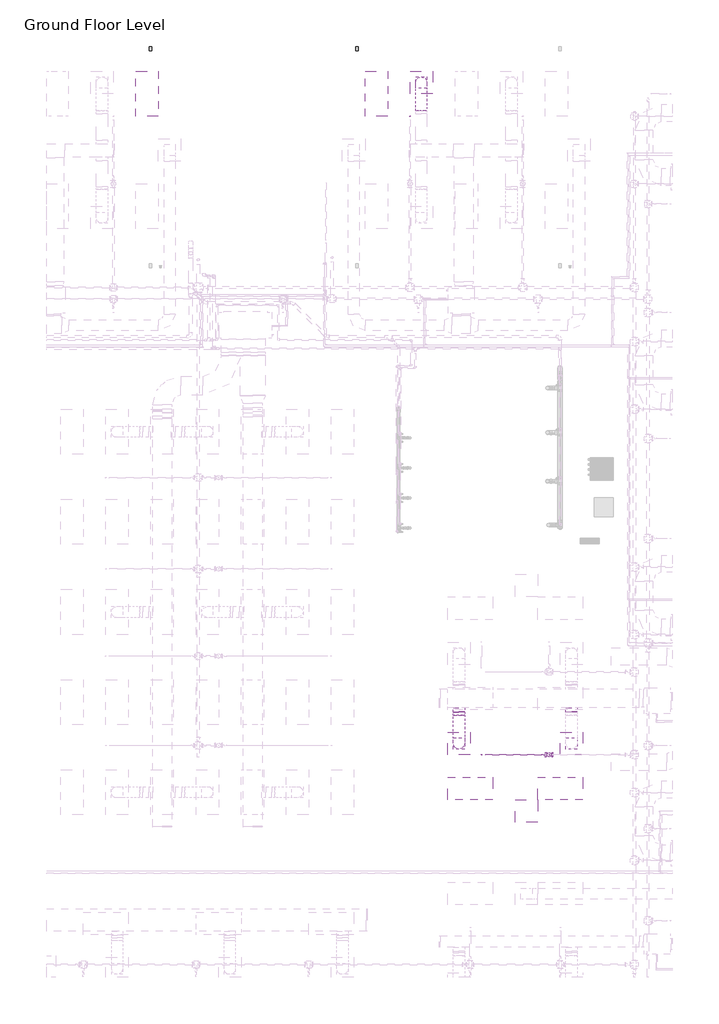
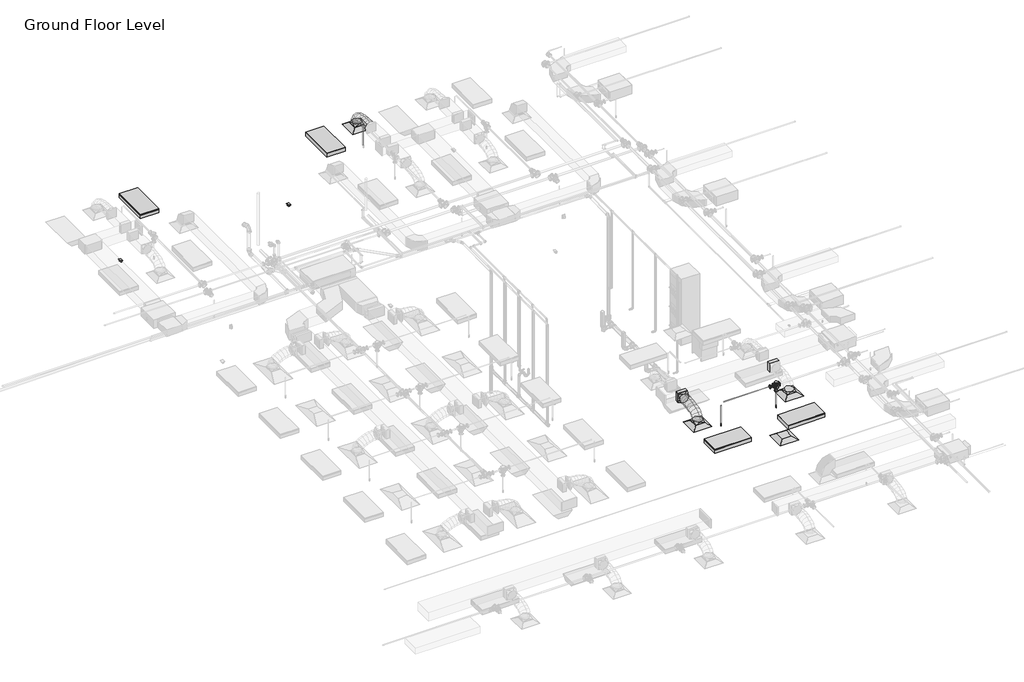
# One storey, part 59 of 74: 6 duct fittings, 4 air terminals, 4 duct segments, 4 light fixtures, 4 pipe segments, 3 pipe fittings, 2 fire suppression terminals, 2 proxies.
"""IFC4 building model written with IfcOpenShell, lengths in millimetres."""

from ifc_helpers import new_model, si_unit, point, frame, frame_2d, origin, place, context, project, spatial, polyline, circle_curve, ellipse_curve, trimmed, segment, composite_curve, outline, extrude, transform, mapped, element, save
from ifc_brep_helpers import plane_surface, cylinder_surface, advanced_brep
from components import m_return_diffuser_600_x_600_face_300_x_300_connection_ff221211, m_duplex_receptacle_standard_10251bba, m_rectangular_takeoff_standard_cb0ccb98, m_rectangular_to_round_transition_angle_45_degree_641efff0, m_sprinkler_dry_pendent_hosted_15_mm_dry_pendent_9bda8e11, m_troffer_light_parabolic_rectangular1_0600x1200mm_4_lamp_86473d4a, m_reducer_flanged_cs_class_150_standard_ccf252ad, m_tee_round_base_flanged_cs_class_150_standard_7e5987a1

model = new_model("IFC4")

# Units and contexts
model_context = context("Model", 3, world=origin())
ifc_project = project(units=[si_unit("LENGTHUNIT", "METRE", prefix="MILLI")], contexts=[model_context])

# Site, building, storey
site = spatial("IfcSite", under=ifc_project)
building = spatial("IfcBuilding", under=site)
storey = spatial("IfcBuildingStorey", under=building, Name="Ground Floor Level", Elevation=900.0)

# Air terminals
placement = place(None, origin())
m_return_diffuser_600_x_600_face_300_x_300_connection_shape = m_return_diffuser_600_x_600_face_300_x_300_connection_ff221211(model_context)
element("IfcAirTerminal", 1, ObjectType="M_Return Diffuser : 600 x 600 Face 300 x 300 Connection", at=placement, inside=storey, context=model_context, shape_type="MappedRepresentation", body=[
    mapped(m_return_diffuser_600_x_600_face_300_x_300_connection_shape, transform((2762.7672395, 1135.2153534, 3650.0), x_axis=(1.0, 0.0, 0.0), y_axis=(0.0, 1.0, 0.0), z_axis=(0.0, 0.0, 1.0))),
])
element("IfcAirTerminal", 2, ObjectType="M_Supply Diffuser : 600 x 600 Face 300 x 300 Connection", at=placement, inside=storey, context=model_context, shape_type="MappedRepresentation", body=[
    mapped(m_return_diffuser_600_x_600_face_300_x_300_connection_shape, transform((-37.2327605, 20535.2153534, 3650.0), x_axis=(1.0, 0.0, 0.0), y_axis=(0.0, 1.0, 0.0), z_axis=(0.0, 0.0, 1.0))),
])
element("IfcAirTerminal", 3, ObjectType="M_Supply Diffuser : 600 x 600 Face 300 x 300 Connection", at=placement, inside=storey, context=model_context, shape_type="MappedRepresentation", body=[
    mapped(m_return_diffuser_600_x_600_face_300_x_300_connection_shape, transform((962.7672395, 2935.2153534, 3650.0), x_axis=(1.0, 0.0, 0.0), y_axis=(0.0, 1.0, 0.0), z_axis=(0.0, 0.0, 1.0))),
])
element("IfcAirTerminal", 4, ObjectType="M_Supply Diffuser : 600 x 600 Face 300 x 300 Connection", at=placement, inside=storey, context=model_context, shape_type="MappedRepresentation", body=[
    mapped(m_return_diffuser_600_x_600_face_300_x_300_connection_shape, transform((3962.7672395, 2935.2153534, 3650.0), x_axis=(1.0, 0.0, 0.0), y_axis=(0.0, 1.0, 0.0), z_axis=(0.0, 0.0, 1.0))),
])

# Proxies
m_duplex_receptacle_standard_shape = m_duplex_receptacle_standard_10251bba(model_context)
element("IfcBuildingElementProxy", 5, Name="M_Duplex Receptacle : Standard", ObjectType="M_Duplex Receptacle : Standard", at=placement, inside=storey, context=model_context, shape_type="MappedRepresentation", body=[
    mapped(m_duplex_receptacle_standard_shape, transform((-7247.2327605, 21435.2153534, 1000.0), x_axis=(-1.0, 0.0, 0.0), y_axis=(0.0, -1.0, 0.0), z_axis=(0.0, 0.0, 1.0))),
])
element("IfcBuildingElementProxy", 6, Name="M_Duplex Receptacle : Standard", ObjectType="M_Duplex Receptacle : Standard", at=placement, inside=storey, context=model_context, shape_type="MappedRepresentation", body=[
    mapped(m_duplex_receptacle_standard_shape, transform((-1747.2327605, 21435.2153534, 1000.0), x_axis=(-1.0, 0.0, 0.0), y_axis=(0.0, -1.0, 0.0), z_axis=(0.0, 0.0, 1.0))),
])

# Duct fittings
m_rectangular_takeoff_standard_shape = m_rectangular_takeoff_standard_cb0ccb98(model_context)
element("IfcDuctFitting", 7, ObjectType="M_Rectangular Takeoff : Standard", at=placement, inside=storey, context=model_context, shape_type="MappedRepresentation", body=[
    mapped(m_rectangular_takeoff_standard_shape, transform((962.7672395, 3885.0199167, 4099.9886676), x_axis=(0.0, -1.0, 0.0), y_axis=(-1.0, 0.0, 0.0), z_axis=(0.0, 0.0, -1.0))),
])
element("IfcDuctFitting", 8, ObjectType="M_Rectangular Takeoff : Standard", at=placement, inside=storey, context=model_context, shape_type="MappedRepresentation", body=[
    mapped(m_rectangular_takeoff_standard_shape, transform((3962.7672395, 3885.0199167, 4099.9957478), x_axis=(0.0, -1.0, 0.0), y_axis=(-1.0, 0.0, 0.0), z_axis=(0.0, 0.0, -1.0))),
])
m_rectangular_to_round_transition_angle_45_degree_shape = m_rectangular_to_round_transition_angle_45_degree_641efff0(model_context)
element("IfcDuctFitting", 9, ObjectType="M_Rectangular to Round Transition - Angle : 45 Degree", at=placement, inside=storey, context=model_context, shape_type="MappedRepresentation", body=[
    mapped(m_rectangular_to_round_transition_angle_45_degree_shape, transform((-37.2327605, 20535.2153534, 3751.6), x_axis=(0.0, 0.0, 1.0), y_axis=(-1.0, 0.0, 0.0), z_axis=(0.0, -1.0, 0.0))),
])
element("IfcDuctFitting", 10, ObjectType="M_Rectangular to Round Transition - Angle : 45 Degree", at=placement, inside=storey, context=model_context, shape_type="MappedRepresentation", body=[
    mapped(m_rectangular_to_round_transition_angle_45_degree_shape, transform((3962.7672395, 2935.2153534, 3751.6), x_axis=(0.0, 0.0, 1.0), y_axis=(-1.0, 0.0, 0.0), z_axis=(0.0, -1.0, 0.0))),
])
element("IfcDuctFitting", 11, ObjectType="M_Rectangular to Round Transition - Angle : 45 Degree", at=placement, inside=storey, context=model_context, shape_type="MappedRepresentation", body=[
    mapped(m_rectangular_to_round_transition_angle_45_degree_shape, transform((962.7672395, 2935.2153534, 3751.6), x_axis=(0.0, 0.0, 1.0), y_axis=(-1.0, 0.0, 0.0), z_axis=(0.0, -1.0, 0.0))),
])
element("IfcDuctFitting", 12, ObjectType="M_Rectangular to Round Transition - Angle : 45 Degree", at=placement, inside=storey, context=model_context, shape_type="MappedRepresentation", body=[
    mapped(m_rectangular_to_round_transition_angle_45_degree_shape, transform((962.7672395, 3762.562617, 4099.9886676), x_axis=(0.0, -1.0, 0.0), y_axis=(1.0, 0.0, 0.0), z_axis=(0.0, 0.0, 1.0))),
])

# Duct segments
element("IfcDuctSegment", 13, ObjectType="Flex - Round", at=placement, inside=storey, context=model_context, shape_type="AdvancedBrep", body=[
    advanced_brep(
    [(112.7672395, 20535.2153534, 3826.6), (-37.2327605, 20385.2153534, 3826.6), (-187.2327605, 20535.2153534, 3826.6), (-37.2327605, 20685.2153534, 3826.6), (112.7672395, 20535.2153534, 3857.9377711), (-37.2327605, 20385.2153534, 3832.2944759), (-187.2327605, 20535.2153534, 3857.9377711), (-37.2327605, 20685.2153534, 3883.5810662), (112.7672395, 20518.1993815, 3906.2505987), (-37.2327605, 20384.461492, 3834.4348871), (-187.2327605, 20518.1993815, 3906.2505987), (-37.2327605, 20651.937271, 3978.0663103), (112.7672395, 20471.0153939, 3968.7112481), (-37.2327605, 20366.8097377, 3857.8017132), (-187.2327605, 20471.0153939, 3968.7112481), (-37.2327605, 20575.2210501, 4079.620783), (112.7672395, 20399.4592831, 4016.0698216), (-37.2327605, 20330.5256105, 3881.8159377), (-187.2327605, 20399.4592831, 4016.0698216), (-37.2327605, 20468.3929557, 4150.3237055), (112.7672395, 20309.3269414, 4050.4141926), (-37.2327605, 20265.7665969, 3906.491959), (-187.2327605, 20309.3269414, 4050.4141926), (-37.2327605, 20352.8872859, 4194.3364261), (112.7672395, 20206.4142611, 4073.8322345), (-37.2327605, 20179.853734, 3926.0416493), (-187.2327605, 20206.4142611, 4073.8322345), (-37.2327605, 20232.9747882, 4221.6228196), (112.7672395, 20096.5171347, 4088.4118207), (-37.2327605, 20081.3665773, 3939.1075232), (-187.2327605, 20096.5171347, 4088.4118207), (-37.2327605, 20111.6676921, 4237.7161183), (112.7672395, 19985.4314545, 4096.2408248), (-37.2327605, 19977.9263947, 3946.3976942), (-187.2327605, 19985.4314545, 4096.2408248), (-37.2327605, 19992.9365143, 4246.0839553), (112.7672395, 19878.9531128, 4099.40712), (-37.2327605, 19876.2617774, 3949.4208461), (-187.2327605, 19878.9531128, 4099.40712), (-37.2327605, 19881.6444482, 4249.393394), (112.7672395, 19782.878002, 4099.9985799), (-37.2327605, 19783.8014181, 4249.9957376), (-187.2327605, 19782.878002, 4099.9985799), (-37.2327605, 19781.9545859, 3950.0014223)],
    [
        (0, 1, circle_curve(frame((-37.2327605, 20535.2153534, 3826.6), z_axis=(0.0, 0.0, -1.0), x_axis=(1.0, 0.0, 0.0)), 150.0)),
        (1, 2, circle_curve(frame((-37.2327605, 20535.2153534, 3826.6), z_axis=(0.0, 0.0, -1.0), x_axis=(1.0, 0.0, 0.0)), 150.0)),
        (2, 3, circle_curve(frame((-37.2327605, 20535.2153534, 3826.6), z_axis=(0.0, 0.0, -1.0), x_axis=(1.0, 0.0, 0.0)), 150.0)),
        (3, 0, circle_curve(frame((-37.2327605, 20535.2153534, 3826.6), z_axis=(0.0, 0.0, -1.0), x_axis=(1.0, 0.0, 0.0)), 150.0)),
        (0, 4),
        (4, 5, ellipse_curve(frame((-37.2327605, 20535.2153534, 3857.9377711), z_axis=(0.0, 0.1685106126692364, -0.9856998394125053), x_axis=(0.0, -0.9856998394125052, -0.16851061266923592)), 152.1761433, 150.0)),
        (5, 1),
        (5, 6, ellipse_curve(frame((-37.2327605, 20535.2153534, 3857.9377711), z_axis=(0.0, 0.1685106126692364, -0.9856998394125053), x_axis=(0.0, -0.9856998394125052, -0.16851061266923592)), 152.1761433, 150.0)),
        (6, 2),
        (6, 7, ellipse_curve(frame((-37.2327605, 20535.2153534, 3857.9377711), z_axis=(0.0, 0.1685106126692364, -0.9856998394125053), x_axis=(0.0, -0.9856998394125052, -0.16851061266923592)), 152.1761433, 150.0)),
        (7, 3),
        (7, 4, ellipse_curve(frame((-37.2327605, 20535.2153534, 3857.9377711), z_axis=(0.0, 0.1685106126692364, -0.9856998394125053), x_axis=(0.0, -0.9856998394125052, -0.16851061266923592)), 152.1761433, 150.0)),
        (4, 8),
        (8, 9, ellipse_curve(frame((-37.2327605, 20518.1993815, 3906.2505987), z_axis=(0.0, 0.4730934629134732, -0.8810122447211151), x_axis=(0.0, -0.8810122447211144, -0.47309346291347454)), 151.8002619, 150.0)),
        (9, 5),
        (9, 10, ellipse_curve(frame((-37.2327605, 20518.1993815, 3906.2505987), z_axis=(0.0, 0.4730934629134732, -0.8810122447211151), x_axis=(0.0, -0.8810122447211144, -0.47309346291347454)), 151.8002619, 150.0)),
        (10, 6),
        (10, 11, ellipse_curve(frame((-37.2327605, 20518.1993815, 3906.2505987), z_axis=(0.0, 0.4730934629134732, -0.8810122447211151), x_axis=(0.0, -0.8810122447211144, -0.47309346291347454)), 151.8002619, 150.0)),
        (11, 7),
        (11, 8, ellipse_curve(frame((-37.2327605, 20518.1993815, 3906.2505987), z_axis=(0.0, 0.4730934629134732, -0.8810122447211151), x_axis=(0.0, -0.8810122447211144, -0.47309346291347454)), 151.8002619, 150.0)),
        (8, 12),
        (12, 13, ellipse_curve(frame((-37.2327605, 20471.0153939, 3968.7112481), z_axis=(0.0, 0.7287893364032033, -0.6847379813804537), x_axis=(0.0, -0.6847379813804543, -0.7287893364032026)), 152.183257, 150.0)),
        (13, 9),
        (13, 14, ellipse_curve(frame((-37.2327605, 20471.0153939, 3968.7112481), z_axis=(0.0, 0.7287893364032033, -0.6847379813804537), x_axis=(0.0, -0.6847379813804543, -0.7287893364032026)), 152.183257, 150.0)),
        (14, 10),
        (14, 15, ellipse_curve(frame((-37.2327605, 20471.0153939, 3968.7112481), z_axis=(0.0, 0.7287893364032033, -0.6847379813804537), x_axis=(0.0, -0.6847379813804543, -0.7287893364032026)), 152.183257, 150.0)),
        (15, 11),
        (15, 12, ellipse_curve(frame((-37.2327605, 20471.0153939, 3968.7112481), z_axis=(0.0, 0.7287893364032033, -0.6847379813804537), x_axis=(0.0, -0.6847379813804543, -0.7287893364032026)), 152.183257, 150.0)),
        (12, 16),
        (16, 17, ellipse_curve(frame((-37.2327605, 20399.4592831, 4016.0698216), z_axis=(0.0, 0.8895872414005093, -0.4567653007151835), x_axis=(0.0, -0.45676530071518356, -0.8895872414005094)), 150.9170519, 150.0)),
        (17, 13),
        (17, 18, ellipse_curve(frame((-37.2327605, 20399.4592831, 4016.0698216), z_axis=(0.0, 0.8895872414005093, -0.4567653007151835), x_axis=(0.0, -0.45676530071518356, -0.8895872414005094)), 150.9170519, 150.0)),
        (18, 14),
        (18, 19, ellipse_curve(frame((-37.2327605, 20399.4592831, 4016.0698216), z_axis=(0.0, 0.8895872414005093, -0.4567653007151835), x_axis=(0.0, -0.45676530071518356, -0.8895872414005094)), 150.9170519, 150.0)),
        (19, 15),
        (19, 16, ellipse_curve(frame((-37.2327605, 20399.4592831, 4016.0698216), z_axis=(0.0, 0.8895872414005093, -0.4567653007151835), x_axis=(0.0, -0.45676530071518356, -0.8895872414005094)), 150.9170519, 150.0)),
        (16, 20),
        (20, 21, ellipse_curve(frame((-37.2327605, 20309.3269414, 4050.4141926), z_axis=(0.0, 0.9571211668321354, -0.2896878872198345), x_axis=(0.0, -0.2896878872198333, -0.9571211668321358)), 150.3699202, 150.0)),
        (21, 17),
        (21, 22, ellipse_curve(frame((-37.2327605, 20309.3269414, 4050.4141926), z_axis=(0.0, 0.9571211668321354, -0.2896878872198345), x_axis=(0.0, -0.2896878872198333, -0.9571211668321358)), 150.3699202, 150.0)),
        (22, 18),
        (22, 23, ellipse_curve(frame((-37.2327605, 20309.3269414, 4050.4141926), z_axis=(0.0, 0.9571211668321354, -0.2896878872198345), x_axis=(0.0, -0.2896878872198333, -0.9571211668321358)), 150.3699202, 150.0)),
        (23, 19),
        (23, 20, ellipse_curve(frame((-37.2327605, 20309.3269414, 4050.4141926), z_axis=(0.0, 0.9571211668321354, -0.2896878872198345), x_axis=(0.0, -0.2896878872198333, -0.9571211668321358)), 150.3699202, 150.0)),
        (20, 24),
        (24, 25, ellipse_curve(frame((-37.2327605, 20206.4142611, 4073.8322345), z_axis=(0.0, 0.9842317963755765, -0.17688349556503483), x_axis=(0.0, -0.1768834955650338, -0.9842317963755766)), 150.158312, 150.0)),
        (25, 21),
        (25, 26, ellipse_curve(frame((-37.2327605, 20206.4142611, 4073.8322345), z_axis=(0.0, 0.9842317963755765, -0.17688349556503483), x_axis=(0.0, -0.1768834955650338, -0.9842317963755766)), 150.158312, 150.0)),
        (26, 22),
        (26, 27, ellipse_curve(frame((-37.2327605, 20206.4142611, 4073.8322345), z_axis=(0.0, 0.9842317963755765, -0.17688349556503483), x_axis=(0.0, -0.1768834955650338, -0.9842317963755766)), 150.158312, 150.0)),
        (27, 23),
        (27, 24, ellipse_curve(frame((-37.2327605, 20206.4142611, 4073.8322345), z_axis=(0.0, 0.9842317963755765, -0.17688349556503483), x_axis=(0.0, -0.1768834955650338, -0.9842317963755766)), 150.158312, 150.0)),
        (24, 28),
        (28, 29, ellipse_curve(frame((-37.2327605, 20096.5171347, 4088.4118207), z_axis=(0.0, 0.9948909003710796, -0.10095591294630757), x_axis=(0.0, -0.10095591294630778, -0.9948909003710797)), 150.0710253, 150.0)),
        (29, 25),
        (29, 30, ellipse_curve(frame((-37.2327605, 20096.5171347, 4088.4118207), z_axis=(0.0, 0.9948909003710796, -0.10095591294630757), x_axis=(0.0, -0.10095591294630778, -0.9948909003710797)), 150.0710253, 150.0)),
        (30, 26),
        (30, 31, ellipse_curve(frame((-37.2327605, 20096.5171347, 4088.4118207), z_axis=(0.0, 0.9948909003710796, -0.10095591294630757), x_axis=(0.0, -0.10095591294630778, -0.9948909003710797)), 150.0710253, 150.0)),
        (31, 27),
        (31, 28, ellipse_curve(frame((-37.2327605, 20096.5171347, 4088.4118207), z_axis=(0.0, 0.9948909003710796, -0.10095591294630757), x_axis=(0.0, -0.10095591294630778, -0.9948909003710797)), 150.0710253, 150.0)),
        (28, 32),
        (32, 33, ellipse_curve(frame((-37.2327605, 19985.4314545, 4096.2408248), z_axis=(0.0, 0.9987480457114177, -0.05002340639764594), x_axis=(0.0, -0.05002340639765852, -0.9987480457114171)), 150.0309624, 150.0)),
        (33, 29),
        (33, 34, ellipse_curve(frame((-37.2327605, 19985.4314545, 4096.2408248), z_axis=(0.0, 0.9987480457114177, -0.05002340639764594), x_axis=(0.0, -0.05002340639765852, -0.9987480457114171)), 150.0309624, 150.0)),
        (34, 30),
        (34, 35, ellipse_curve(frame((-37.2327605, 19985.4314545, 4096.2408248), z_axis=(0.0, 0.9987480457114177, -0.05002340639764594), x_axis=(0.0, -0.05002340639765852, -0.9987480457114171)), 150.0309624, 150.0)),
        (35, 31),
        (35, 32, ellipse_curve(frame((-37.2327605, 19985.4314545, 4096.2408248), z_axis=(0.0, 0.9987480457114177, -0.05002340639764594), x_axis=(0.0, -0.05002340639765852, -0.9987480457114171)), 150.0309624, 150.0)),
        (32, 36),
        (36, 37, ellipse_curve(frame((-37.2327605, 19878.9531128, 4099.40712), z_axis=(0.0, 0.9998390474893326, -0.01794098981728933), x_axis=(0.0, -0.017940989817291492, -0.9998390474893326)), 150.0104185, 150.0)),
        (37, 33),
        (37, 38, ellipse_curve(frame((-37.2327605, 19878.9531128, 4099.40712), z_axis=(0.0, 0.9998390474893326, -0.01794098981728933), x_axis=(0.0, -0.017940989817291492, -0.9998390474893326)), 150.0104185, 150.0)),
        (38, 34),
        (38, 39, ellipse_curve(frame((-37.2327605, 19878.9531128, 4099.40712), z_axis=(0.0, 0.9998390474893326, -0.01794098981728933), x_axis=(0.0, -0.017940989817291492, -0.9998390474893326)), 150.0104185, 150.0)),
        (39, 35),
        (39, 36, ellipse_curve(frame((-37.2327605, 19878.9531128, 4099.40712), z_axis=(0.0, 0.9998390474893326, -0.01794098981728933), x_axis=(0.0, -0.017940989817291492, -0.9998390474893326)), 150.0104185, 150.0)),
        (40, 41, circle_curve(frame((-37.2327605, 19782.878002, 4099.9985799), z_axis=(0.0, -0.9999810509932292, 0.006156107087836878), x_axis=(1.0, 0.0, 0.0)), 150.0)),
        (41, 42, circle_curve(frame((-37.2327605, 19782.878002, 4099.9985799), z_axis=(0.0, -0.9999810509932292, 0.006156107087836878), x_axis=(1.0, 0.0, 0.0)), 150.0)),
        (42, 43, circle_curve(frame((-37.2327605, 19782.878002, 4099.9985799), z_axis=(0.0, -0.9999810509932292, 0.006156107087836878), x_axis=(1.0, 0.0, 0.0)), 150.0)),
        (43, 40, circle_curve(frame((-37.2327605, 19782.878002, 4099.9985799), z_axis=(0.0, -0.9999810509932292, 0.006156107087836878), x_axis=(1.0, 0.0, 0.0)), 150.0)),
        (36, 40),
        (43, 37),
        (42, 38),
        (41, 39),
    ],
    [
        plane_surface(frame((-37.2327605, 20385.2153534, 3826.6), z_axis=(0.0, 0.0, -1.0), x_axis=(1.0, 0.0, 0.0))),
        cylinder_surface(frame((-37.2327605, 20535.2153534, 3826.6), z_axis=(0.0, 0.0, -1.0), x_axis=(1.0, 0.0, 0.0)), 150.0),
        cylinder_surface(frame((-37.2327605, 20535.2153534, 3857.9377711), z_axis=(0.0, 0.33220176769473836, -0.9432083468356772), x_axis=(1.0, 0.0, 0.0)), 150.0),
        cylinder_surface(frame((-37.2327605, 20518.1993815, 3906.2505987), z_axis=(0.0, 0.6027639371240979, -0.7979195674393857), x_axis=(1.0, 0.0, 0.0)), 150.0),
        cylinder_surface(frame((-37.2327605, 20471.0153939, 3968.7112481), z_axis=(0.0, 0.8339039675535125, -0.551909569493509), x_axis=(1.0, 0.0, 0.0)), 150.0),
        cylinder_surface(frame((-37.2327605, 20399.4592831, 4016.0698216), z_axis=(0.0, 0.934459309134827, -0.35606993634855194), x_axis=(1.0, 0.0, 0.0)), 150.0),
        cylinder_surface(frame((-37.2327605, 20309.3269414, 4050.4141926), z_axis=(0.0, 0.9750738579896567, -0.22188053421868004), x_axis=(1.0, 0.0, 0.0)), 150.0),
        cylinder_surface(frame((-37.2327605, 20206.4142611, 4073.8322345), z_axis=(0.0, 0.9913143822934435, -0.13151348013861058), x_axis=(1.0, 0.0, 0.0)), 150.0),
        cylinder_surface(frame((-37.2327605, 20096.5171347, 4088.4118207), z_axis=(0.0, 0.997525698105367, -0.07030278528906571), x_axis=(1.0, 0.0, 0.0)), 150.0),
        cylinder_surface(frame((-37.2327605, 19985.4314545, 4096.2408248), z_axis=(0.0, 0.9995581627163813, -0.029723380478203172), x_axis=(1.0, 0.0, 0.0)), 150.0),
        plane_surface(frame((-37.2327605, 19781.9545859, 3950.0014223), z_axis=(0.0, -0.9999810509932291, 0.006156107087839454), x_axis=(1.0, 0.0, 0.0))),
        cylinder_surface(frame((-37.2327605, 19878.9531128, 4099.40712), z_axis=(0.0, 0.9999810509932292, -0.006156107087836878), x_axis=(1.0, 0.0, 0.0)), 150.0),
    ],
    [
        (0, [[1, 2, 3, 4]]),
        (1, [[-1, 5, 6, 7]]),
        (1, [[-2, -7, 8, 9]]),
        (1, [[-3, -9, 10, 11]]),
        (1, [[-4, -11, 12, -5]]),
        (2, [[-6, 13, 14, 15]]),
        (2, [[-8, -15, 16, 17]]),
        (2, [[-10, -17, 18, 19]]),
        (2, [[-12, -19, 20, -13]]),
        (3, [[-14, 21, 22, 23]]),
        (3, [[-16, -23, 24, 25]]),
        (3, [[-18, -25, 26, 27]]),
        (3, [[-20, -27, 28, -21]]),
        (4, [[-22, 29, 30, 31]]),
        (4, [[-24, -31, 32, 33]]),
        (4, [[-26, -33, 34, 35]]),
        (4, [[-28, -35, 36, -29]]),
        (5, [[-30, 37, 38, 39]]),
        (5, [[-32, -39, 40, 41]]),
        (5, [[-34, -41, 42, 43]]),
        (5, [[-36, -43, 44, -37]]),
        (6, [[-38, 45, 46, 47]]),
        (6, [[-40, -47, 48, 49]]),
        (6, [[-42, -49, 50, 51]]),
        (6, [[-44, -51, 52, -45]]),
        (7, [[-46, 53, 54, 55]]),
        (7, [[-48, -55, 56, 57]]),
        (7, [[-50, -57, 58, 59]]),
        (7, [[-52, -59, 60, -53]]),
        (8, [[-54, 61, 62, 63]]),
        (8, [[-56, -63, 64, 65]]),
        (8, [[-58, -65, 66, 67]]),
        (8, [[-60, -67, 68, -61]]),
        (9, [[-62, 69, 70, 71]]),
        (9, [[-64, -71, 72, 73]]),
        (9, [[-66, -73, 74, 75]]),
        (9, [[-68, -75, 76, -69]]),
        (10, [[77, 78, 79, 80]]),
        (11, [[-70, 81, -80, 82]]),
        (11, [[-72, -82, -79, 83]]),
        (11, [[-74, -83, -78, 84]]),
        (11, [[-76, -84, -77, -81]]),
    ],
),
])
element("IfcDuctSegment", 14, ObjectType="Flex - Round", at=placement, inside=storey, context=model_context, shape_type="AdvancedBrep", body=[
    advanced_brep(
    [(1112.7672395, 2935.2153534, 3826.6), (962.7672395, 2785.2153534, 3826.6), (812.7672395, 2935.2153534, 3826.6), (962.7672395, 3085.2153534, 3826.6), (1112.7672395, 2935.2153534, 3857.9381871), (962.7672395, 2785.2153534, 3883.5819907), (812.7672395, 2935.2153534, 3857.9381871), (962.7672395, 3085.2153534, 3832.2943835), (1112.7672395, 2952.2316002, 3906.2507795), (962.7672395, 2818.4943349, 3978.0678013), (812.7672395, 2952.2316002, 3906.2507795), (962.7672395, 3085.9688654, 3834.4337577), (1112.7672395, 2999.416336, 3968.7107945), (962.7672395, 2895.2123764, 4079.622042), (812.7672395, 2999.416336, 3968.7107945), (962.7672395, 3103.6202956, 3857.7995469), (1112.7672395, 3070.9735542, 4016.0681304), (962.7672395, 3002.0425552, 4150.3234022), (812.7672395, 3070.9735542, 4016.0681304), (962.7672395, 3139.9045533, 3881.8128585), (1112.7672395, 3161.1072481, 4050.4108726), (962.7672395, 3117.549826, 4194.3339853), (812.7672395, 3161.1072481, 4050.4108726), (962.7672395, 3204.6646702, 3906.4877598), (1112.7672395, 3264.0214108, 4073.8271066), (962.7672395, 3237.463654, 4221.618182), (812.7672395, 3264.0214108, 4073.8271066), (962.7672395, 3290.5791677, 3926.0360311), (1112.7672395, 3373.9200359, 4088.4049176), (962.7672395, 3358.7718863, 4237.7094524), (812.7672395, 3373.9200359, 4088.4049176), (962.7672395, 3389.0681854, 3939.1003829), (1112.7672395, 3485.0071164, 4096.2323912), (962.7672395, 3477.5039298, 4246.0756092), (812.7672395, 3485.0071164, 4096.2323912), (962.7672395, 3492.5103029, 3946.3891733), (1112.7672395, 3591.4866457, 4099.3976128), (962.7672395, 3588.796411, 4249.383901), (812.7672395, 3591.4866457, 4099.3976128), (962.7672395, 3594.1768803, 3949.4113245), (1112.7672395, 3687.562617, 4099.9886676), (962.7672395, 3688.4853925, 3949.991506), (812.7672395, 3687.562617, 4099.9886676), (962.7672395, 3686.6398415, 4249.9858292)],
    [
        (0, 1, circle_curve(frame((962.7672395, 2935.2153534, 3826.6), z_axis=(0.0, 0.0, -1.0), x_axis=(1.0, 0.0, 0.0)), 150.0)),
        (1, 2, circle_curve(frame((962.7672395, 2935.2153534, 3826.6), z_axis=(0.0, 0.0, -1.0), x_axis=(1.0, 0.0, 0.0)), 150.0)),
        (2, 3, circle_curve(frame((962.7672395, 2935.2153534, 3826.6), z_axis=(0.0, 0.0, -1.0), x_axis=(1.0, 0.0, 0.0)), 150.0)),
        (3, 0, circle_curve(frame((962.7672395, 2935.2153534, 3826.6), z_axis=(0.0, 0.0, -1.0), x_axis=(1.0, 0.0, 0.0)), 150.0)),
        (0, 4),
        (4, 5, ellipse_curve(frame((962.7672395, 2935.2153534, 3857.9381871), z_axis=(0.0, -0.16851385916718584, -0.9856992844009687), x_axis=(0.0, 0.9856992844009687, -0.16851385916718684)), 152.176229, 150.0)),
        (5, 1),
        (5, 6, ellipse_curve(frame((962.7672395, 2935.2153534, 3857.9381871), z_axis=(0.0, -0.16851385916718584, -0.9856992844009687), x_axis=(0.0, 0.9856992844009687, -0.16851385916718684)), 152.176229, 150.0)),
        (6, 2),
        (6, 7, ellipse_curve(frame((962.7672395, 2935.2153534, 3857.9381871), z_axis=(0.0, -0.16851385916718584, -0.9856992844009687), x_axis=(0.0, 0.9856992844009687, -0.16851385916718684)), 152.176229, 150.0)),
        (7, 3),
        (7, 4, ellipse_curve(frame((962.7672395, 2935.2153534, 3857.9381871), z_axis=(0.0, -0.16851385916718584, -0.9856992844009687), x_axis=(0.0, 0.9856992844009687, -0.16851385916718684)), 152.176229, 150.0)),
        (4, 8),
        (8, 9, ellipse_curve(frame((962.7672395, 2952.2316002, 3906.2507795), z_axis=(0.0, -0.47310187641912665, -0.8810077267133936), x_axis=(0.0, 0.881007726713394, -0.47310187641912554)), 151.8003318, 150.0)),
        (9, 5),
        (9, 10, ellipse_curve(frame((962.7672395, 2952.2316002, 3906.2507795), z_axis=(0.0, -0.47310187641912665, -0.8810077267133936), x_axis=(0.0, 0.881007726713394, -0.47310187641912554)), 151.8003318, 150.0)),
        (10, 6),
        (10, 11, ellipse_curve(frame((962.7672395, 2952.2316002, 3906.2507795), z_axis=(0.0, -0.47310187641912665, -0.8810077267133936), x_axis=(0.0, 0.881007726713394, -0.47310187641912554)), 151.8003318, 150.0)),
        (11, 7),
        (11, 8, ellipse_curve(frame((962.7672395, 2952.2316002, 3906.2507795), z_axis=(0.0, -0.47310187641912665, -0.8810077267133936), x_axis=(0.0, 0.881007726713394, -0.47310187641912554)), 151.8003318, 150.0)),
        (8, 12),
        (12, 13, ellipse_curve(frame((962.7672395, 2999.416336, 3968.7107945), z_axis=(0.0, -0.7288001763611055, -0.6847264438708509), x_axis=(0.0, 0.6847264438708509, -0.7288001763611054)), 152.1833434, 150.0)),
        (13, 9),
        (13, 14, ellipse_curve(frame((962.7672395, 2999.416336, 3968.7107945), z_axis=(0.0, -0.7288001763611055, -0.6847264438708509), x_axis=(0.0, 0.6847264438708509, -0.7288001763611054)), 152.1833434, 150.0)),
        (14, 10),
        (14, 15, ellipse_curve(frame((962.7672395, 2999.416336, 3968.7107945), z_axis=(0.0, -0.7288001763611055, -0.6847264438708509), x_axis=(0.0, 0.6847264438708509, -0.7288001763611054)), 152.1833434, 150.0)),
        (15, 11),
        (15, 12, ellipse_curve(frame((962.7672395, 2999.416336, 3968.7107945), z_axis=(0.0, -0.7288001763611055, -0.6847264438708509), x_axis=(0.0, 0.6847264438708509, -0.7288001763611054)), 152.1833434, 150.0)),
        (12, 16),
        (16, 17, ellipse_curve(frame((962.7672395, 3070.9735542, 4016.0681304), z_axis=(0.0, -0.8895963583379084, -0.45674754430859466), x_axis=(0.0, 0.4567475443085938, -0.8895963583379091)), 150.9170655, 150.0)),
        (17, 13),
        (17, 18, ellipse_curve(frame((962.7672395, 3070.9735542, 4016.0681304), z_axis=(0.0, -0.8895963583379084, -0.45674754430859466), x_axis=(0.0, 0.4567475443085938, -0.8895963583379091)), 150.9170655, 150.0)),
        (18, 14),
        (18, 19, ellipse_curve(frame((962.7672395, 3070.9735542, 4016.0681304), z_axis=(0.0, -0.8895963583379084, -0.45674754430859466), x_axis=(0.0, 0.4567475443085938, -0.8895963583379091)), 150.9170655, 150.0)),
        (19, 15),
        (19, 16, ellipse_curve(frame((962.7672395, 3070.9735542, 4016.0681304), z_axis=(0.0, -0.8895963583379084, -0.45674754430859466), x_axis=(0.0, 0.4567475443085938, -0.8895963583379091)), 150.9170655, 150.0)),
        (16, 20),
        (20, 21, ellipse_curve(frame((962.7672395, 3161.1072481, 4050.4108726), z_axis=(0.0, -0.9571270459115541, -0.2896684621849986), x_axis=(0.0, 0.2896684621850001, -0.9571270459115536)), 150.3699152, 150.0)),
        (21, 17),
        (21, 22, ellipse_curve(frame((962.7672395, 3161.1072481, 4050.4108726), z_axis=(0.0, -0.9571270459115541, -0.2896684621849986), x_axis=(0.0, 0.2896684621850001, -0.9571270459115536)), 150.3699152, 150.0)),
        (22, 18),
        (22, 23, ellipse_curve(frame((962.7672395, 3161.1072481, 4050.4108726), z_axis=(0.0, -0.9571270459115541, -0.2896684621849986), x_axis=(0.0, 0.2896684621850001, -0.9571270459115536)), 150.3699152, 150.0)),
        (23, 19),
        (23, 20, ellipse_curve(frame((962.7672395, 3161.1072481, 4050.4108726), z_axis=(0.0, -0.9571270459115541, -0.2896684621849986), x_axis=(0.0, 0.2896684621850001, -0.9571270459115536)), 150.3699152, 150.0)),
        (20, 24),
        (24, 25, ellipse_curve(frame((962.7672395, 3264.0214108, 4073.8271066), z_axis=(0.0, -0.984235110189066, -0.1768650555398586), x_axis=(0.0, 0.1768650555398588, -0.984235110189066)), 150.1583045, 150.0)),
        (25, 21),
        (25, 26, ellipse_curve(frame((962.7672395, 3264.0214108, 4073.8271066), z_axis=(0.0, -0.984235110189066, -0.1768650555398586), x_axis=(0.0, 0.1768650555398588, -0.984235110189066)), 150.1583045, 150.0)),
        (26, 22),
        (26, 27, ellipse_curve(frame((962.7672395, 3264.0214108, 4073.8271066), z_axis=(0.0, -0.984235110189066, -0.1768650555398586), x_axis=(0.0, 0.1768650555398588, -0.984235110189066)), 150.1583045, 150.0)),
        (27, 23),
        (27, 24, ellipse_curve(frame((962.7672395, 3264.0214108, 4073.8271066), z_axis=(0.0, -0.984235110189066, -0.1768650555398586), x_axis=(0.0, 0.1768650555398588, -0.984235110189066)), 150.1583045, 150.0)),
        (24, 28),
        (28, 29, ellipse_curve(frame((962.7672395, 3373.9200359, 4088.4049176), z_axis=(0.0, -0.9948925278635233, -0.10093987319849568), x_axis=(0.0, 0.10093987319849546, -0.9948925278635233)), 150.0710183, 150.0)),
        (29, 25),
        (29, 30, ellipse_curve(frame((962.7672395, 3373.9200359, 4088.4049176), z_axis=(0.0, -0.9948925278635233, -0.10093987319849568), x_axis=(0.0, 0.10093987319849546, -0.9948925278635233)), 150.0710183, 150.0)),
        (30, 26),
        (30, 31, ellipse_curve(frame((962.7672395, 3373.9200359, 4088.4049176), z_axis=(0.0, -0.9948925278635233, -0.10093987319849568), x_axis=(0.0, 0.10093987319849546, -0.9948925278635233)), 150.0710183, 150.0)),
        (31, 27),
        (31, 28, ellipse_curve(frame((962.7672395, 3373.9200359, 4088.4049176), z_axis=(0.0, -0.9948925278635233, -0.10093987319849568), x_axis=(0.0, 0.10093987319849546, -0.9948925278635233)), 150.0710183, 150.0)),
        (28, 32),
        (32, 33, ellipse_curve(frame((962.7672395, 3485.0071164, 4096.2323912), z_axis=(0.0, -0.9987486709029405, -0.050010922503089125), x_axis=(0.0, 0.05001092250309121, -0.9987486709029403)), 150.0309561, 150.0)),
        (33, 29),
        (33, 34, ellipse_curve(frame((962.7672395, 3485.0071164, 4096.2323912), z_axis=(0.0, -0.9987486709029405, -0.050010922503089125), x_axis=(0.0, 0.05001092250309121, -0.9987486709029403)), 150.0309561, 150.0)),
        (34, 30),
        (34, 35, ellipse_curve(frame((962.7672395, 3485.0071164, 4096.2323912), z_axis=(0.0, -0.9987486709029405, -0.050010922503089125), x_axis=(0.0, 0.05001092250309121, -0.9987486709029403)), 150.0309561, 150.0)),
        (35, 31),
        (35, 32, ellipse_curve(frame((962.7672395, 3485.0071164, 4096.2323912), z_axis=(0.0, -0.9987486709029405, -0.050010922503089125), x_axis=(0.0, 0.05001092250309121, -0.9987486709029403)), 150.0309561, 150.0)),
        (32, 36),
        (36, 37, ellipse_curve(frame((962.7672395, 3591.4866457, 4099.3976128), z_axis=(0.0, -0.9998391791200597, -0.017933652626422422), x_axis=(0.0, 0.01793365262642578, -0.9998391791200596)), 150.0104131, 150.0)),
        (37, 33),
        (37, 38, ellipse_curve(frame((962.7672395, 3591.4866457, 4099.3976128), z_axis=(0.0, -0.9998391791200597, -0.017933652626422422), x_axis=(0.0, 0.01793365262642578, -0.9998391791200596)), 150.0104131, 150.0)),
        (38, 34),
        (38, 39, ellipse_curve(frame((962.7672395, 3591.4866457, 4099.3976128), z_axis=(0.0, -0.9998391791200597, -0.017933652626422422), x_axis=(0.0, 0.01793365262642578, -0.9998391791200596)), 150.0104131, 150.0)),
        (39, 35),
        (39, 36, ellipse_curve(frame((962.7672395, 3591.4866457, 4099.3976128), z_axis=(0.0, -0.9998391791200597, -0.017933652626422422), x_axis=(0.0, 0.01793365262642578, -0.9998391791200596)), 150.0104131, 150.0)),
        (40, 41, circle_curve(frame((962.7672395, 3687.562617, 4099.9886676), z_axis=(0.0, 0.9999810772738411, 0.006151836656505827), x_axis=(1.0, 0.0, 0.0)), 150.0)),
        (41, 42, circle_curve(frame((962.7672395, 3687.562617, 4099.9886676), z_axis=(0.0, 0.9999810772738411, 0.006151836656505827), x_axis=(1.0, 0.0, 0.0)), 150.0)),
        (42, 43, circle_curve(frame((962.7672395, 3687.562617, 4099.9886676), z_axis=(0.0, 0.9999810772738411, 0.006151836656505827), x_axis=(1.0, 0.0, 0.0)), 150.0)),
        (43, 40, circle_curve(frame((962.7672395, 3687.562617, 4099.9886676), z_axis=(0.0, 0.9999810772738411, 0.006151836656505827), x_axis=(1.0, 0.0, 0.0)), 150.0)),
        (36, 40),
        (43, 37),
        (42, 38),
        (41, 39),
    ],
    [
        plane_surface(frame((962.7672395, 2785.2153534, 3826.6), z_axis=(0.0, 0.0, -1.0), x_axis=(1.0, 0.0, 0.0))),
        cylinder_surface(frame((962.7672395, 2935.2153534, 3826.6), z_axis=(0.0, 0.0, -1.0), x_axis=(1.0, 0.0, 0.0)), 150.0),
        cylinder_surface(frame((962.7672395, 2935.2153534, 3857.9381871), z_axis=(0.0, -0.33220798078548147, -0.9432061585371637), x_axis=(1.0, 0.0, 0.0)), 150.0),
        cylinder_surface(frame((962.7672395, 2952.2316002, 3906.2507795), z_axis=(0.0, -0.6027739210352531, -0.7979120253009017), x_axis=(1.0, 0.0, 0.0)), 150.0),
        cylinder_surface(frame((962.7672395, 2999.416336, 3968.7107945), z_axis=(0.0, -0.83391453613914, -0.5518936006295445), x_axis=(1.0, 0.0, 0.0)), 150.0),
        cylinder_surface(frame((962.7672395, 3070.9735542, 4016.0681304), z_axis=(0.0, -0.9344667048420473, -0.35605052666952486), x_axis=(1.0, 0.0, 0.0)), 150.0),
        cylinder_surface(frame((962.7672395, 3161.1072481, 4050.4108726), z_axis=(0.0, -0.975078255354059, -0.22186120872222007), x_axis=(1.0, 0.0, 0.0)), 150.0),
        cylinder_surface(frame((962.7672395, 3264.0214108, 4073.8271066), z_axis=(0.0, -0.9913167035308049, -0.1314959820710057), x_axis=(1.0, 0.0, 0.0)), 150.0),
        cylinder_surface(frame((962.7672395, 3373.9200359, 4088.4049176), z_axis=(0.0, -0.9975267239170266, -0.07028822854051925), x_axis=(1.0, 0.0, 0.0)), 150.0),
        cylinder_surface(frame((962.7672395, 3485.0071164, 4096.2323912), z_axis=(0.0, -0.9995584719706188, -0.029712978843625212), x_axis=(1.0, 0.0, 0.0)), 150.0),
        plane_surface(frame((962.7672395, 3686.6398415, 4249.9858292), z_axis=(0.0, 0.9999810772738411, 0.00615183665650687), x_axis=(1.0, 0.0, 0.0))),
        cylinder_surface(frame((962.7672395, 3591.4866457, 4099.3976128), z_axis=(0.0, -0.9999810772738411, -0.006151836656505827), x_axis=(1.0, 0.0, 0.0)), 150.0),
    ],
    [
        (0, [[1, 2, 3, 4]]),
        (1, [[-1, 5, 6, 7]]),
        (1, [[-2, -7, 8, 9]]),
        (1, [[-3, -9, 10, 11]]),
        (1, [[-4, -11, 12, -5]]),
        (2, [[-6, 13, 14, 15]]),
        (2, [[-8, -15, 16, 17]]),
        (2, [[-10, -17, 18, 19]]),
        (2, [[-12, -19, 20, -13]]),
        (3, [[-14, 21, 22, 23]]),
        (3, [[-16, -23, 24, 25]]),
        (3, [[-18, -25, 26, 27]]),
        (3, [[-20, -27, 28, -21]]),
        (4, [[-22, 29, 30, 31]]),
        (4, [[-24, -31, 32, 33]]),
        (4, [[-26, -33, 34, 35]]),
        (4, [[-28, -35, 36, -29]]),
        (5, [[-30, 37, 38, 39]]),
        (5, [[-32, -39, 40, 41]]),
        (5, [[-34, -41, 42, 43]]),
        (5, [[-36, -43, 44, -37]]),
        (6, [[-38, 45, 46, 47]]),
        (6, [[-40, -47, 48, 49]]),
        (6, [[-42, -49, 50, 51]]),
        (6, [[-44, -51, 52, -45]]),
        (7, [[-46, 53, 54, 55]]),
        (7, [[-48, -55, 56, 57]]),
        (7, [[-50, -57, 58, 59]]),
        (7, [[-52, -59, 60, -53]]),
        (8, [[-54, 61, 62, 63]]),
        (8, [[-56, -63, 64, 65]]),
        (8, [[-58, -65, 66, 67]]),
        (8, [[-60, -67, 68, -61]]),
        (9, [[-62, 69, 70, 71]]),
        (9, [[-64, -71, 72, 73]]),
        (9, [[-66, -73, 74, 75]]),
        (9, [[-68, -75, 76, -69]]),
        (10, [[77, 78, 79, 80]]),
        (11, [[-70, 81, -80, 82]]),
        (11, [[-72, -82, -79, 83]]),
        (11, [[-74, -83, -78, 84]]),
        (11, [[-76, -84, -77, -81]]),
    ],
),
])
element("IfcDuctSegment", 15, ObjectType="Radius Elbows / Taps", at=placement, inside=storey, context=model_context, shape_type="SweptSolid", body=[
    extrude(outline(polyline([(812.7672395, 3783.4199167), (1112.7672395, 3783.4199167), (1112.7672395, 3762.562617), (812.7672395, 3762.562617), (812.7672395, 3783.4199167)])), frame((0.0, 0.0, 3949.9886676), z_axis=(0.0, 0.0, 1.0), x_axis=(1.0, 0.0, 0.0)), (0.0, 0.0, 1.0), 300.0),
])
element("IfcDuctSegment", 16, ObjectType="Radius Elbows / Taps", at=placement, inside=storey, context=model_context, shape_type="SweptSolid", body=[
    extrude(outline(polyline([(3812.7672395, 3783.4199167), (4112.7672395, 3783.4199167), (4112.7672395, 3762.5555369), (3812.7672395, 3762.5555369), (3812.7672395, 3783.4199167)])), frame((0.0, 0.0, 3949.9957478), z_axis=(0.0, 0.0, 1.0), x_axis=(1.0, 0.0, 0.0)), (0.0, 0.0, 1.0), 300.0),
])

# Fire suppression terminals
m_sprinkler_dry_pendent_hosted_15_mm_dry_pendent_shape = m_sprinkler_dry_pendent_hosted_15_mm_dry_pendent_9bda8e11(model_context)
element("IfcFireSuppressionTerminal", 17, ObjectType="M_Sprinkler - Dry - Pendent - Hosted : 15 mm Dry Pendent", at=placement, inside=storey, context=model_context, shape_type="MappedRepresentation", body=[
    mapped(m_sprinkler_dry_pendent_hosted_15_mm_dry_pendent_shape, transform((3367.3772563, 2635.2153534, 3650.0), x_axis=(1.0, 0.0, 0.0), y_axis=(0.0, -1.0, 0.0), z_axis=(0.0, 0.0, -1.0))),
])
element("IfcFireSuppressionTerminal", 18, ObjectType="M_Sprinkler - Dry - Pendent - Hosted : 15 mm Dry Pendent", at=placement, inside=storey, context=model_context, shape_type="MappedRepresentation", body=[
    mapped(m_sprinkler_dry_pendent_hosted_15_mm_dry_pendent_shape, transform((1565.5763283, 2635.2153534, 3650.0), x_axis=(1.0, 0.0, 0.0), y_axis=(0.0, -1.0, 0.0), z_axis=(0.0, 0.0, -1.0))),
])

# Light fixtures
m_troffer_light_parabolic_rectangular1_0600x1200mm_4_lamp_shape = m_troffer_light_parabolic_rectangular1_0600x1200mm_4_lamp_86473d4a(model_context)
element("IfcLightFixture", 19, ObjectType="M_Troffer Light - Parabolic Rectangular1 : 0600x1200mm(4 Lamp) - 277V 2", at=placement, inside=storey, context=model_context, shape_type="MappedRepresentation", body=[
    mapped(m_troffer_light_parabolic_rectangular1_0600x1200mm_4_lamp_shape, transform((-7396.6986926, 20253.918855, 3650.0), x_axis=(0.0, 1.0, 0.0), y_axis=(-1.0, 0.0, 0.0), z_axis=(0.0, 0.0, 1.0))),
])
element("IfcLightFixture", 20, ObjectType="M_Troffer Light - Parabolic Rectangular1 : 0600x1200mm(4 Lamp) - 277V 2", at=placement, inside=storey, context=model_context, shape_type="MappedRepresentation", body=[
    mapped(m_troffer_light_parabolic_rectangular1_0600x1200mm_4_lamp_shape, transform((-1296.6986926, 20253.918855, 3650.0), x_axis=(0.0, 1.0, 0.0), y_axis=(-1.0, 0.0, 0.0), z_axis=(0.0, 0.0, 1.0))),
])
element("IfcLightFixture", 21, ObjectType="M_Troffer Light - Parabolic Rectangular1 : 0600x1200mm(4 Lamp) - 277V 2", at=placement, inside=storey, context=model_context, shape_type="MappedRepresentation", body=[
    mapped(m_troffer_light_parabolic_rectangular1_0600x1200mm_4_lamp_shape, transform((1281.4707411, 1794.6812855, 3650.0), x_axis=(1.0, 0.0, 0.0), y_axis=(0.0, 1.0, 0.0), z_axis=(0.0, 0.0, 1.0))),
])
element("IfcLightFixture", 22, ObjectType="M_Troffer Light - Parabolic Rectangular1 : 0600x1200mm(4 Lamp) - 277V 2", at=placement, inside=storey, context=model_context, shape_type="MappedRepresentation", body=[
    mapped(m_troffer_light_parabolic_rectangular1_0600x1200mm_4_lamp_shape, transform((3681.4707411, 1794.6812855, 3650.0), x_axis=(1.0, 0.0, 0.0), y_axis=(0.0, 1.0, 0.0), z_axis=(0.0, 0.0, 1.0))),
])

# Pipe fittings
m_reducer_flanged_cs_class_150_standard_shape = m_reducer_flanged_cs_class_150_standard_ccf252ad(model_context)
element("IfcPipeFitting", 23, ObjectType="M_Reducer - Flanged - CS - Class 150 : Standard", at=placement, inside=storey, context=model_context, shape_type="MappedRepresentation", body=[
    mapped(m_reducer_flanged_cs_class_150_standard_shape, transform((3266.6686625, 2635.2153534, 4360.0), x_axis=(-1.0, 0.0, 0.0), y_axis=(0.0, 0.0, 1.0), z_axis=(0.0, 1.0, 0.0))),
])
element("IfcPipeFitting", 24, ObjectType="M_Reducer - Flanged - CS - Class 150 : Standard", at=placement, inside=storey, context=model_context, shape_type="MappedRepresentation", body=[
    mapped(m_reducer_flanged_cs_class_150_standard_shape, transform((3367.3772563, 2635.2153534, 4259.2914062), x_axis=(0.0, 0.0, -1.0), y_axis=(-1.0, 0.0, 0.0), z_axis=(0.0, 1.0, 0.0))),
])
m_tee_round_base_flanged_cs_class_150_standard_shape = m_tee_round_base_flanged_cs_class_150_standard_7e5987a1(model_context)
element("IfcPipeFitting", 25, ObjectType="M_Tee Round Base - Flanged - CS - Class 150 : Standard", at=placement, inside=storey, context=model_context, shape_type="MappedRepresentation", body=[
    mapped(m_tee_round_base_flanged_cs_class_150_standard_shape, transform((3367.3772563, 2635.2153534, 4360.0), x_axis=(-1.0, 0.0, 0.0), y_axis=(0.0, 0.0, 1.0), z_axis=(0.0, 1.0, 0.0))),
])

# Pipe segments
element("IfcPipeSegment", 26, ObjectType="Steel flanged", at=placement, inside=storey, context=model_context, shape_type="SweptSolid", body=[
    extrude(outline(composite_curve([segment(trimmed(circle_curve(frame_2d((-337.2327605, 19635.2153534)), 10.668), [point((-347.9007605, 19635.2153534))], [point((-337.2327605, 19645.8833534))], False, "CARTESIAN"), True, "CONTINUOUS"), segment(trimmed(circle_curve(frame_2d((-337.2327605, 19635.2153534)), 10.668), [point((-337.2327605, 19645.8833534))], [point((-326.5647605, 19635.2153534))], False, "CARTESIAN"), True, "CONTINUOUS"), segment(trimmed(circle_curve(frame_2d((-337.2327605, 19635.2153534)), 10.668), [point((-326.5647605, 19635.2153534))], [point((-337.2327605, 19624.5473534))], False, "CARTESIAN"), True, "CONTINUOUS"), segment(trimmed(circle_curve(frame_2d((-337.2327605, 19635.2153534)), 10.668), [point((-337.2327605, 19624.5473534))], [point((-347.9007605, 19635.2153534))], False, "CARTESIAN"), True, "CONTINUOUS")], self_intersect=False)), frame((0.0, 0.0, 3650.0), z_axis=(0.0, 0.0, 1.0), x_axis=(1.0, 0.0, 0.0)), (0.0, 0.0, 1.0), 616.9914063),
])
element("IfcPipeSegment", 27, ObjectType="Steel flanged", at=placement, inside=storey, context=model_context, shape_type="SweptSolid", body=[
    extrude(outline(composite_curve([segment(trimmed(circle_curve(frame_2d((1565.5763283, 2635.2153534)), 10.668), [point((1554.9083283, 2635.2153534))], [point((1565.5763283, 2645.8833534))], False, "CARTESIAN"), True, "CONTINUOUS"), segment(trimmed(circle_curve(frame_2d((1565.5763283, 2635.2153534)), 10.668), [point((1565.5763283, 2645.8833534))], [point((1576.2443283, 2635.2153534))], False, "CARTESIAN"), True, "CONTINUOUS"), segment(trimmed(circle_curve(frame_2d((1565.5763283, 2635.2153534)), 10.668), [point((1576.2443283, 2635.2153534))], [point((1565.5763283, 2624.5473534))], False, "CARTESIAN"), True, "CONTINUOUS"), segment(trimmed(circle_curve(frame_2d((1565.5763283, 2635.2153534)), 10.668), [point((1565.5763283, 2624.5473534))], [point((1554.9083283, 2635.2153534))], False, "CARTESIAN"), True, "CONTINUOUS")], self_intersect=False)), frame((0.0, 0.0, 3650.0), z_axis=(0.0, 0.0, 1.0), x_axis=(1.0, 0.0, 0.0)), (0.0, 0.0, 1.0), 616.9914062),
])
element("IfcPipeSegment", 28, ObjectType="Steel flanged", at=placement, inside=storey, context=model_context, shape_type="SweptSolid", body=[
    extrude(outline(composite_curve([segment(trimmed(circle_curve(frame_2d((3367.3772563, 2635.2153534)), 10.668), [point((3356.7092563, 2635.2153534))], [point((3367.3772563, 2645.8833534))], False, "CARTESIAN"), True, "CONTINUOUS"), segment(trimmed(circle_curve(frame_2d((3367.3772563, 2635.2153534)), 10.668), [point((3367.3772563, 2645.8833534))], [point((3378.0452563, 2635.2153534))], False, "CARTESIAN"), True, "CONTINUOUS"), segment(trimmed(circle_curve(frame_2d((3367.3772563, 2635.2153534)), 10.668), [point((3378.0452563, 2635.2153534))], [point((3367.3772563, 2624.5473534))], False, "CARTESIAN"), True, "CONTINUOUS"), segment(trimmed(circle_curve(frame_2d((3367.3772563, 2635.2153534)), 10.668), [point((3367.3772563, 2624.5473534))], [point((3356.7092563, 2635.2153534))], False, "CARTESIAN"), True, "CONTINUOUS")], self_intersect=False)), frame((0.0, 0.0, 3650.0), z_axis=(0.0, 0.0, 1.0), x_axis=(1.0, 0.0, 0.0)), (0.0, 0.0, 1.0), 495.2914062),
])
element("IfcPipeSegment", 29, ObjectType="Steel flanged", at=placement, inside=storey, context=model_context, shape_type="SweptSolid", body=[
    extrude(outline(composite_curve([segment(trimmed(circle_curve(frame_2d((2635.2153534, 4360.0)), 10.668), [point((2624.5473534, 4360.0))], [point((2635.2153534, 4370.668))], False, "CARTESIAN"), True, "CONTINUOUS"), segment(trimmed(circle_curve(frame_2d((2635.2153534, 4360.0)), 10.668), [point((2635.2153534, 4370.668))], [point((2645.8833534, 4360.0))], False, "CARTESIAN"), True, "CONTINUOUS"), segment(trimmed(circle_curve(frame_2d((2635.2153534, 4360.0)), 10.668), [point((2645.8833534, 4360.0))], [point((2635.2153534, 4349.332))], False, "CARTESIAN"), True, "CONTINUOUS"), segment(trimmed(circle_curve(frame_2d((2635.2153534, 4360.0)), 10.668), [point((2635.2153534, 4349.332))], [point((2624.5473534, 4360.0))], False, "CARTESIAN"), True, "CONTINUOUS")], self_intersect=False)), frame((1658.584922, 0.0, 0.0), z_axis=(1.0, 0.0, 0.0), x_axis=(0.0, 1.0, 0.0)), (0.0, 0.0, 1.0), 1494.0837405),
])

save(model, "model.ifc")
